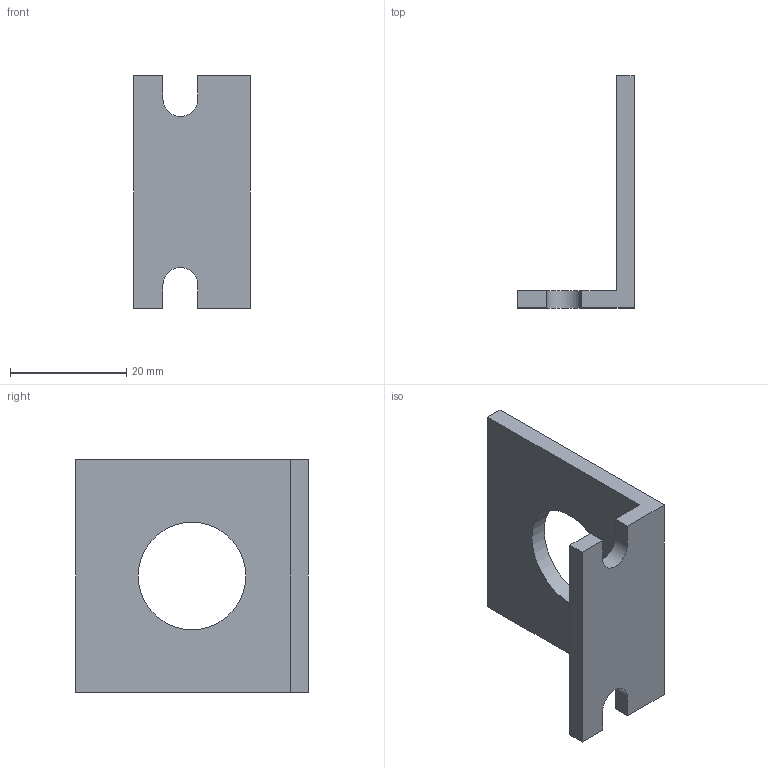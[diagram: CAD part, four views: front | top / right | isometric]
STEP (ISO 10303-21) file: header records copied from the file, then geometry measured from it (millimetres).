
FILE_DESCRIPTION(/* description */ (''),/* implementation_level */ '2;1');
FILE_NAME(/* name */ 'C:\#Vault-WorkDir\Konstruktions-Dokumente\Projekte\Zubehör allgemein\153-00015_MA 18 Montagewinkel FM 18_0.stp',/* time_stamp */ '2015-03-05T11:16:50+01:00',/* author */ ('sandra.stahl'),/* organization */ (''),/* preprocessor_version */ 'ST-DEVELOPER v15.2',/* originating_system */ 'Autodesk Inventor 2014',/* authorisation */ '');
FILE_SCHEMA (('AUTOMOTIVE_DESIGN { 1 0 10303 214 3 1 1 }'));
Length unit declared in the file: millimetre
Products named in the file (1): GH-ENG-0009188
Bounding box: 20 x 40 x 40 mm (x, y, z)
Volume: 5804.8 mm3; surface area: 4694.8 mm2
Topology: 1 solids, 1 shells, 17 faces, 46 edges, 31 vertices
Faces by surface type: plane 14, cylinder 3
Full cylindrical faces by diameter (mm): 18.5 x1
Entity records: 548 total; most frequent: CARTESIAN_POINT 92, ORIENTED_EDGE 88, DIRECTION 86, EDGE_CURVE 44, LINE 38, VECTOR 38, VERTEX_POINT 30, AXIS2_PLACEMENT_3D 24
